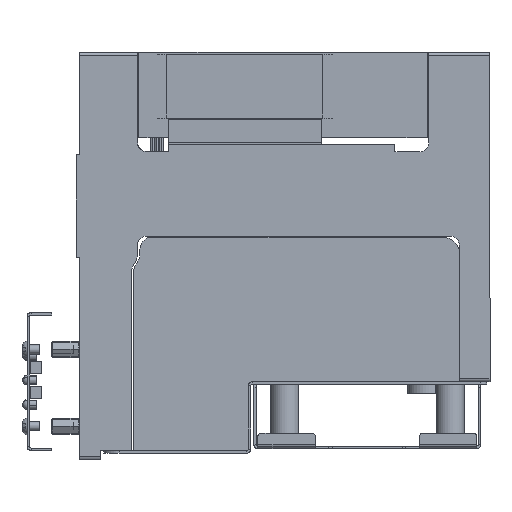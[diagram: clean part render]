
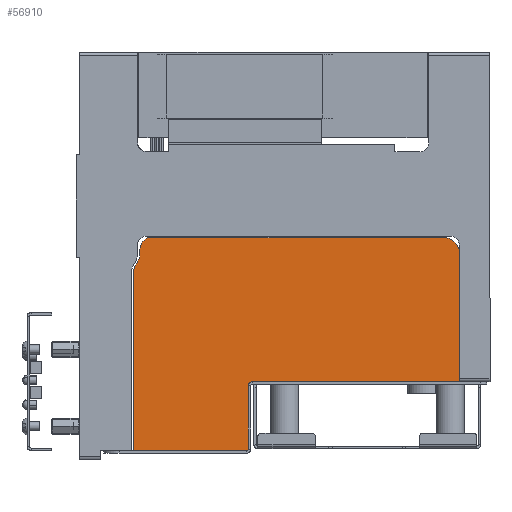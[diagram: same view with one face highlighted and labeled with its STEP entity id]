
A CAD part, left-side view. The second image highlights one B-rep face of the part: STEP entity #56910.
In plain terms, the highlighted planar face has unit normal (-1, 0, 0).
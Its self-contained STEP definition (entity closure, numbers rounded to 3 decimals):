
#1672 = VERTEX_POINT ( 'NONE', #45334 ) ;
#2410 = CARTESIAN_POINT ( 'NONE',  ( -239., 38.2, 70.3 ) ) ;
#3404 = LINE ( 'NONE', #42028, #37985 ) ;
#3574 = VECTOR ( 'NONE', #74466, 1000. ) ;
#4309 = DIRECTION ( 'NONE',  ( -1., 0., 0. ) ) ;
#6147 = CARTESIAN_POINT ( 'NONE',  ( -239., 1.3, 1.3 ) ) ;
#6855 = ORIENTED_EDGE ( 'NONE', *, *, #66228, .F. ) ;
#8233 = CARTESIAN_POINT ( 'NONE',  ( -239., 37.3, 61.9 ) ) ;
#9090 = VERTEX_POINT ( 'NONE', #8233 ) ;
#10001 = DIRECTION ( 'NONE',  ( 0., -1., 0. ) ) ;
#10921 = DIRECTION ( 'NONE',  ( 0., 0., -1. ) ) ;
#11062 = EDGE_CURVE ( 'NONE', #33477, #83381, #115461, .T. ) ;
#12408 = DIRECTION ( 'NONE',  ( 0., 0., -1. ) ) ;
#12595 = DIRECTION ( 'NONE',  ( 0., 1., 0. ) ) ;
#12667 = LINE ( 'NONE', #2410, #15468 ) ;
#13558 = CARTESIAN_POINT ( 'NONE',  ( -239., 33.7, 59.2 ) ) ;
#13822 = DIRECTION ( 'NONE',  ( -1., 0., 0. ) ) ;
#13974 = DIRECTION ( 'NONE',  ( 0., 0., -1. ) ) ;
#15468 = VECTOR ( 'NONE', #57974, 1000. ) ;
#15865 = EDGE_CURVE ( 'NONE', #101916, #106270, #3404, .T. ) ;
#17411 = VECTOR ( 'NONE', #90121, 1000. ) ;
#18391 = VERTEX_POINT ( 'NONE', #23978 ) ;
#18538 = LINE ( 'NONE', #93302, #93178 ) ;
#19999 = VERTEX_POINT ( 'NONE', #86693 ) ;
#21662 = EDGE_CURVE ( 'NONE', #106270, #59005, #105489, .T. ) ;
#23675 = DIRECTION ( 'NONE',  ( 0., 0., -1. ) ) ;
#23978 = CARTESIAN_POINT ( 'NONE',  ( -239., 0.8, 1.3 ) ) ;
#24077 = CARTESIAN_POINT ( 'NONE',  ( -239., -0.5, 23.3 ) ) ;
#24415 = EDGE_CURVE ( 'NONE', #19999, #18391, #77520, .T. ) ;
#24948 = PLANE ( 'NONE',  #68176 ) ;
#25022 = ORIENTED_EDGE ( 'NONE', *, *, #115431, .T. ) ;
#26326 = ORIENTED_EDGE ( 'NONE', *, *, #15865, .F. ) ;
#27165 = AXIS2_PLACEMENT_3D ( 'NONE', #87089, #4309, #23675 ) ;
#28372 = AXIS2_PLACEMENT_3D ( 'NONE', #56857, #93600, #10921 ) ;
#29003 = ORIENTED_EDGE ( 'NONE', *, *, #86192, .F. ) ;
#31288 = AXIS2_PLACEMENT_3D ( 'NONE', #51673, #33472, #97464 ) ;
#31887 = AXIS2_PLACEMENT_3D ( 'NONE', #69378, #13822, #51320 ) ;
#32850 = DIRECTION ( 'NONE',  ( 0., 0., -1. ) ) ;
#33062 = EDGE_CURVE ( 'NONE', #9090, #1672, #118647, .T. ) ;
#33472 = DIRECTION ( 'NONE',  ( 1., 0., 0. ) ) ;
#33477 = VERTEX_POINT ( 'NONE', #49247 ) ;
#36218 = ORIENTED_EDGE ( 'NONE', *, *, #73908, .F. ) ;
#36240 = CARTESIAN_POINT ( 'NONE',  ( -239., -68., 65.3 ) ) ;
#37985 = VECTOR ( 'NONE', #113229, 1000. ) ;
#39139 = EDGE_LOOP ( 'NONE', ( #26326, #25022, #105792, #46607, #36218, #114876, #63647, #29003, #55775, #6855, #105915, #98745, #111751 ) ) ;
#41792 = DIRECTION ( 'NONE',  ( 1., 0., 0. ) ) ;
#42028 = CARTESIAN_POINT ( 'NONE',  ( -239., -68., 70.3 ) ) ;
#45108 = VERTEX_POINT ( 'NONE', #83994 ) ;
#45334 = CARTESIAN_POINT ( 'NONE',  ( -239., 36.2, 65.2 ) ) ;
#46607 = ORIENTED_EDGE ( 'NONE', *, *, #102490, .F. ) ;
#49247 = CARTESIAN_POINT ( 'NONE',  ( -239., 1.3, 0.8 ) ) ;
#51320 = DIRECTION ( 'NONE',  ( 0., 0., -1. ) ) ;
#51673 = CARTESIAN_POINT ( 'NONE',  ( -239., 31.7, 66.2 ) ) ;
#54812 = EDGE_CURVE ( 'NONE', #90391, #9090, #93874, .T. ) ;
#55394 = AXIS2_PLACEMENT_3D ( 'NONE', #13558, #115492, #32850 ) ;
#55775 = ORIENTED_EDGE ( 'NONE', *, *, #11062, .F. ) ;
#56255 = CARTESIAN_POINT ( 'NONE',  ( -239., 38.2, 59.2 ) ) ;
#56761 = EDGE_CURVE ( 'NONE', #82122, #80816, #18538, .T. ) ;
#56857 = CARTESIAN_POINT ( 'NONE',  ( -239., -63., 65.3 ) ) ;
#56910 = ADVANCED_FACE ( 'NONE', ( #97930 ), #24948, .F. ) ;
#57974 = DIRECTION ( 'NONE',  ( 0., 0., 1. ) ) ;
#59005 = VERTEX_POINT ( 'NONE', #111028 ) ;
#63647 = ORIENTED_EDGE ( 'NONE', *, *, #54812, .F. ) ;
#64143 = CIRCLE ( 'NONE', #31288, 4.5 ) ;
#66228 = EDGE_CURVE ( 'NONE', #18391, #33477, #74266, .T. ) ;
#67572 = CARTESIAN_POINT ( 'NONE',  ( -239., -68., 23.3 ) ) ;
#68176 = AXIS2_PLACEMENT_3D ( 'NONE', #6147, #77022, #12408 ) ;
#69378 = CARTESIAN_POINT ( 'NONE',  ( -239., 41.7, 65.2 ) ) ;
#71838 = CARTESIAN_POINT ( 'NONE',  ( -239., -63., 70.3 ) ) ;
#73667 = CARTESIAN_POINT ( 'NONE',  ( -239., 33.555, 70.3 ) ) ;
#73908 = EDGE_CURVE ( 'NONE', #1672, #45108, #84709, .T. ) ;
#74266 = CIRCLE ( 'NONE', #97384, 0.5 ) ;
#74466 = DIRECTION ( 'NONE',  ( 0., 0., 1. ) ) ;
#75315 = CIRCLE ( 'NONE', #27165, 1.3 ) ;
#77022 = DIRECTION ( 'NONE',  ( 1., 0., 0. ) ) ;
#77520 = LINE ( 'NONE', #114244, #17411 ) ;
#80526 = CIRCLE ( 'NONE', #28372, 5. ) ;
#80816 = VERTEX_POINT ( 'NONE', #71838 ) ;
#82122 = VERTEX_POINT ( 'NONE', #73667 ) ;
#83381 = VERTEX_POINT ( 'NONE', #96369 ) ;
#83994 = CARTESIAN_POINT ( 'NONE',  ( -239., 36.2, 66.2 ) ) ;
#84709 = LINE ( 'NONE', #93692, #3574 ) ;
#86192 = EDGE_CURVE ( 'NONE', #83381, #90391, #12667, .T. ) ;
#86693 = CARTESIAN_POINT ( 'NONE',  ( -239., 0.8, 22. ) ) ;
#87089 = CARTESIAN_POINT ( 'NONE',  ( -239., -0.5, 22. ) ) ;
#88202 = VECTOR ( 'NONE', #12595, 1000. ) ;
#90121 = DIRECTION ( 'NONE',  ( 0., 0., -1. ) ) ;
#90391 = VERTEX_POINT ( 'NONE', #56255 ) ;
#93178 = VECTOR ( 'NONE', #10001, 1000. ) ;
#93302 = CARTESIAN_POINT ( 'NONE',  ( -239., 37., 70.3 ) ) ;
#93600 = DIRECTION ( 'NONE',  ( -1., 0., 0. ) ) ;
#93692 = CARTESIAN_POINT ( 'NONE',  ( -239., 36.2, 66.2 ) ) ;
#93874 = CIRCLE ( 'NONE', #55394, 4.5 ) ;
#95613 = CARTESIAN_POINT ( 'NONE',  ( -239., 37., 0.8 ) ) ;
#96065 = CARTESIAN_POINT ( 'NONE',  ( -239., 1.3, 1.3 ) ) ;
#96369 = CARTESIAN_POINT ( 'NONE',  ( -239., 38.2, 0.8 ) ) ;
#97384 = AXIS2_PLACEMENT_3D ( 'NONE', #96065, #41792, #13974 ) ;
#97464 = DIRECTION ( 'NONE',  ( 0., 0., -1. ) ) ;
#97930 = FACE_OUTER_BOUND ( 'NONE', #39139, .T. ) ;
#98550 = VECTOR ( 'NONE', #105811, 1000. ) ;
#98745 = ORIENTED_EDGE ( 'NONE', *, *, #117071, .F. ) ;
#101916 = VERTEX_POINT ( 'NONE', #36240 ) ;
#102490 = EDGE_CURVE ( 'NONE', #45108, #82122, #64143, .T. ) ;
#105489 = LINE ( 'NONE', #24077, #88202 ) ;
#105792 = ORIENTED_EDGE ( 'NONE', *, *, #56761, .F. ) ;
#105811 = DIRECTION ( 'NONE',  ( 0., 1., 0. ) ) ;
#105915 = ORIENTED_EDGE ( 'NONE', *, *, #24415, .F. ) ;
#106270 = VERTEX_POINT ( 'NONE', #67572 ) ;
#111028 = CARTESIAN_POINT ( 'NONE',  ( -239., -0.5, 23.3 ) ) ;
#111751 = ORIENTED_EDGE ( 'NONE', *, *, #21662, .F. ) ;
#113229 = DIRECTION ( 'NONE',  ( 0., 0., -1. ) ) ;
#114244 = CARTESIAN_POINT ( 'NONE',  ( -239., 0.8, 1.3 ) ) ;
#114876 = ORIENTED_EDGE ( 'NONE', *, *, #33062, .F. ) ;
#115431 = EDGE_CURVE ( 'NONE', #101916, #80816, #80526, .T. ) ;
#115461 = LINE ( 'NONE', #95613, #98550 ) ;
#115492 = DIRECTION ( 'NONE',  ( 1., 0., 0. ) ) ;
#117071 = EDGE_CURVE ( 'NONE', #59005, #19999, #75315, .T. ) ;
#118647 = CIRCLE ( 'NONE', #31887, 5.5 ) ;
